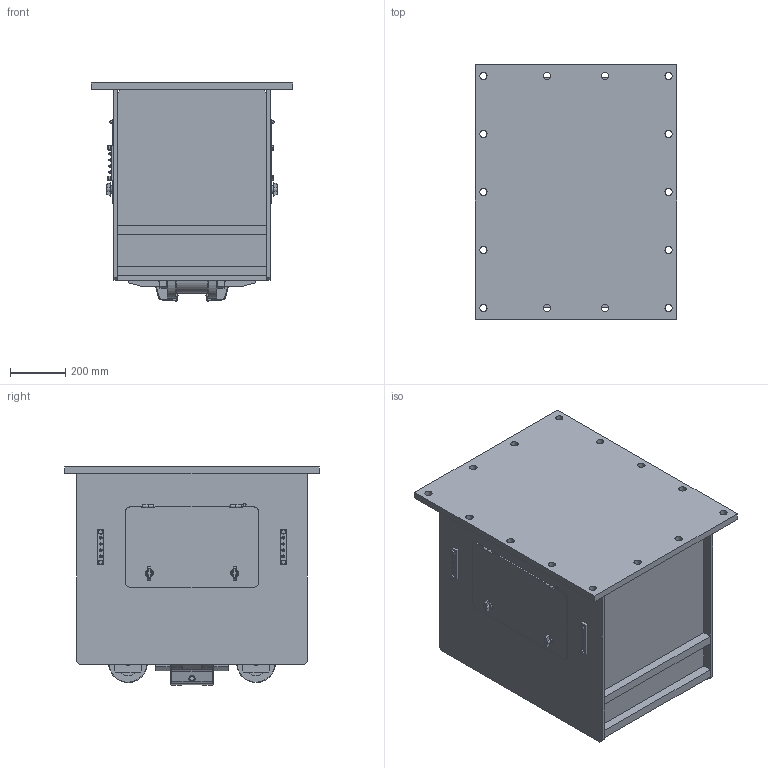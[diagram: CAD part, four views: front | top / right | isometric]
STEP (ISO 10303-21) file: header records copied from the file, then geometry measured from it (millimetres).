
FILE_DESCRIPTION(/* description */ (''),/* implementation_level */ '2;1');
FILE_NAME(/* name */ 'C:\Vault_Workspace\HILLMAR\HILLMAR PRODUCTION\02 STORM BRAKES\0100-2\01002086 CXHV-LH-150-250-RP\SM3D-CXHV-LH-150-250-RP\78275.stp',/* time_stamp */ '2016-10-24T11:25:24+02:00',/* author */ ('vlakrc01'),/* organization */ (''),/* preprocessor_version */ 'ST-DEVELOPER v16.1',/* originating_system */ 'Autodesk Inventor 2016',/* authorisation */ '');
FILE_SCHEMA (('AUTOMOTIVE_DESIGN { 1 0 10303 214 3 1 1 }'));
Products named in the file (1): 78275
Bounding box: 730 x 920 x 789.65 mm (x, y, z)
Volume: 80088781 mm3; surface area: 8219051.3 mm2
Topology: 5 solids, 7 shells, 3541 faces, 9056 edges, 5532 vertices
Faces by surface type: plane 1554, cylinder 942, bspline 598, sphere 190, torus 152, cone 105
Full cylindrical faces by diameter (mm): 3 x3, 5.459 x2, 5.5 x4, 6 x2, 6.6 x2, 8.7 x2, 9.188 x4, 9.8 x4, 10 x4, 10.109 x2, 12 x8, 15.4 x4, 16 x4, 18 x8, 21.032 x4, 22.4 x2, 25 x4, 26 x14, 30 x4, 55.562 x4, 63.5 x1, 90 x4, 100 x2, 140 x4, 150 x2
Entity records: 124492 total; most frequent: CARTESIAN_POINT 39701, ORIENTED_EDGE 17440, DIRECTION 15864, EDGE_CURVE 8720, AXIS2_PLACEMENT_3D 5476, VERTEX_POINT 5445, LINE 4912, VECTOR 4912
